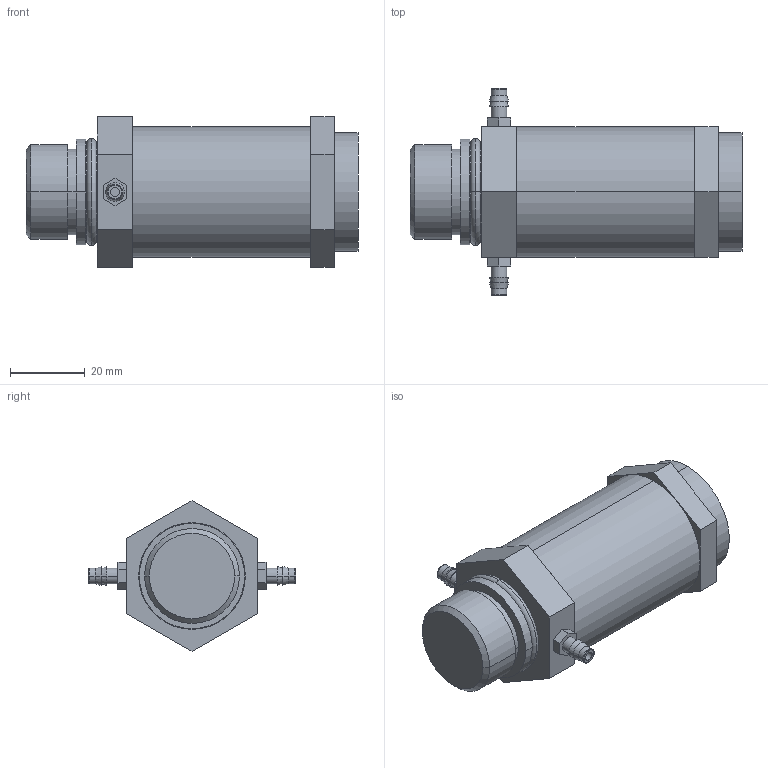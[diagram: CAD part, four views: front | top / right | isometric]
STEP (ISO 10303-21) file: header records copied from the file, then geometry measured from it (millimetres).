
FILE_DESCRIPTION((''),'2;1');
FILE_NAME('UGR3_ASM','2017-08-24T',('jennifer.elliott'),('CenterLine (Windsor) Ltd - Automation Components Division'),'PRO/ENGINEER BY PARAMETRIC TECHNOLOGY CORPORATION, 2015030','PRO/ENGINEER BY PARAMETRIC TECHNOLOGY CORPORATION, 2015030','');
FILE_SCHEMA(('AUTOMOTIVE_DESIGN { 1 0 10303 214 1 1 1 1 }'));
Length unit declared in the file: inch
Products named in the file (8): PRT0187; PRT0188; PRT0189; PRT0190; PRT0191; PRT0192; PRT0193; UGR3_ASM
Assembly tree (7 placements, depth 2):
  UGR3_ASM
    PRT0187
    PRT0188
    PRT0189
    PRT0190
    PRT0191
    PRT0192
    PRT0193
Bounding box: 88.9 x 55.55 x 40.33 mm (x, y, z)
Volume: 77678.1 mm3; surface area: 18778.5 mm2
Topology: 7 solids, 7 shells, 92 faces, 192 edges, 122 vertices
Faces by surface type: plane 46, cylinder 24, torus 12, cone 10
Entity records: 2978 total; most frequent: DIRECTION 492, CARTESIAN_POINT 443, ORIENTED_EDGE 384, AXIS2_PLACEMENT_3D 193, EDGE_CURVE 192, VERTEX_POINT 122, VECTOR 106, LINE 106
